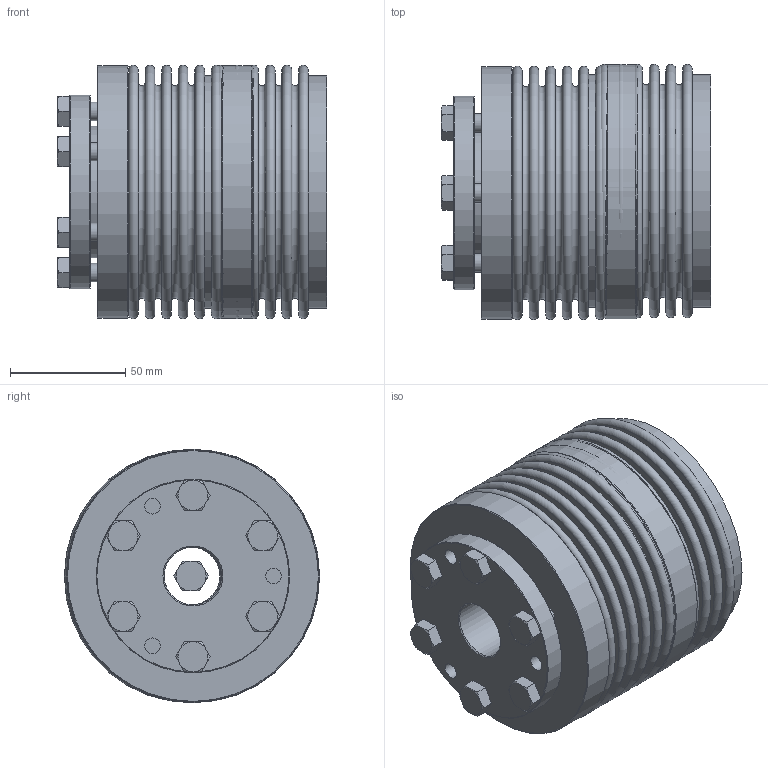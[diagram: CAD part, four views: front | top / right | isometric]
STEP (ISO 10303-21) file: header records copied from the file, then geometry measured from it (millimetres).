
FILE_DESCRIPTION( ( 'Unknown' ), '1' );
FILE_NAME( 'C:/Dokumente und Einstellungen/Sven/Desktop/homepage/cad - homepage/KB5/KB5-300-102.stp', 'Unknown', ( 'Unknown' ), ( 'Unknown' ), 'XStep 1.0', 'Unknown', ' ' );
FILE_SCHEMA( ( 'automotive_design' ) );
Length unit declared in the file: millimetre
Products named in the file (5): Assem1; Hex Screw GradeC_ISO_ISO 4018 - M8 x 30-NN; BA300_Standard; BL300_Standard; KB300_Standard
Bounding box: 116.92 x 110.82 x 110 mm (x, y, z)
Volume: 756116.4 mm3; surface area: 340641.8 mm2
Topology: 21 solids, 21 shells, 442 faces, 900 edges, 567 vertices
Faces by surface type: plane 187, cone 127, cylinder 81, torus 47
Full cylindrical faces by diameter (mm): 6.8 x9, 8 x31, 8.5 x18, 25 x3, 57 x3, 84 x3, 88 x3, 99.8 x4, 101 x4, 109.5 x3
Entity records: 2786 total; most frequent: DIRECTION 494, CARTESIAN_POINT 428, ORIENTED_EDGE 278, AXIS2_PLACEMENT_3D 241, EDGE_LOOP 232, FACE_OUTER_BOUND 156, EDGE_CURVE 139, VERTEX_POINT 127
